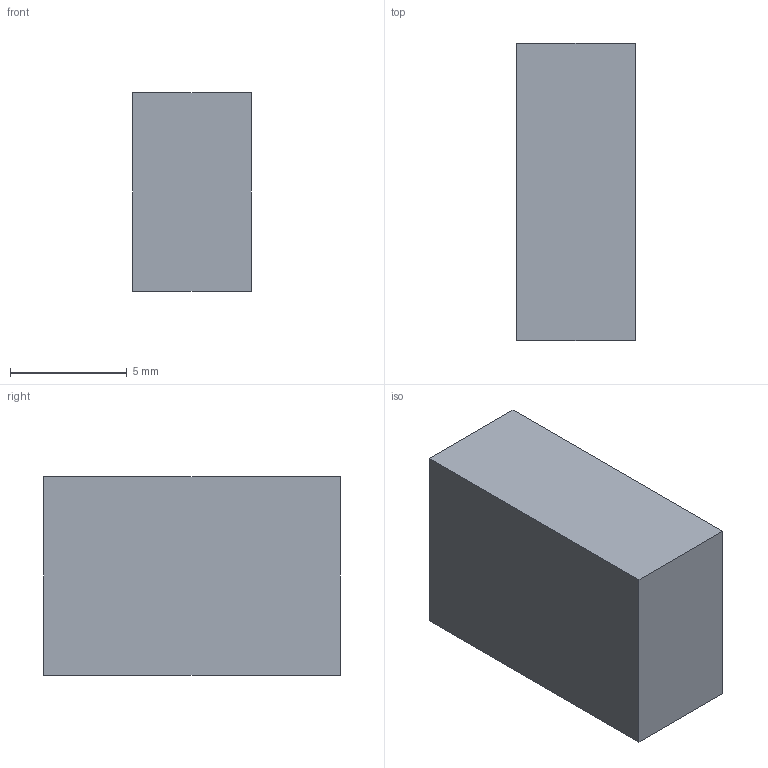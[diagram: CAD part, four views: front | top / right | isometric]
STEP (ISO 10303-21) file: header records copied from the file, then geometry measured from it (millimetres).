
FILE_DESCRIPTION((''),'2;1');
FILE_NAME('HDR10_R1','2026-10-06T14:54:11',('line0'),(''),'CREO PARAMETRIC BY PTC INC, 2024344','CREO PARAMETRIC BY PTC INC, 2024344','');
FILE_SCHEMA(('AUTOMOTIVE_DESIGN { 1 0 10303 214 1 1 1 1 }'));
Length unit declared in the file: millimetre
Products named in the file (1): HDR10_R1
Bounding box: 5.08 x 12.7 x 8.5 mm (x, y, z)
Volume: 548.4 mm3; surface area: 431.3 mm2
Topology: 1 solids, 1 shells, 6 faces, 12 edges, 8 vertices
Faces by surface type: plane 6
Entity records: 356 total; most frequent: DIRECTION 41, CARTESIAN_POINT 39, ORIENTED_EDGE 24, PRESENTATION_STYLE_ASSIGNMENT 14, STYLED_ITEM 14, CURVE_STYLE 13, AXIS2_PLACEMENT_3D 13, VECTOR 12
